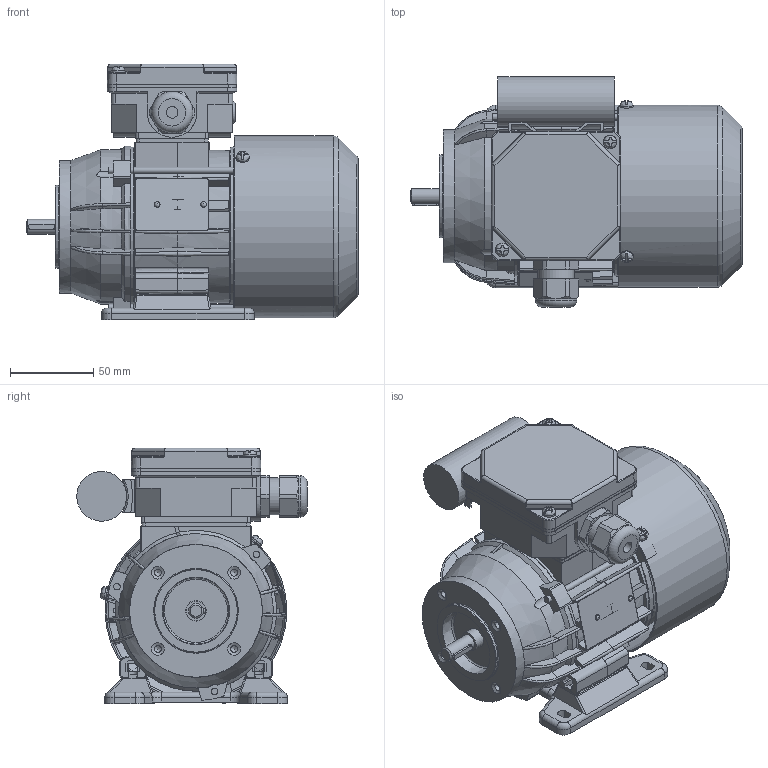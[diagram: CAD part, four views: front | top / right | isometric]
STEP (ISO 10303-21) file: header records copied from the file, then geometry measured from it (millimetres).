
FILE_DESCRIPTION( ( 'Unknown' ), '1' );
FILE_NAME( 'G:/Poczta Tk-1/STP/w.m.56/SEh56/SE(M)Lh56-C2.stp', 'Unknown', ( 'K. Szlosek' ), ( 'BESEL S.A.' ), 'PSStep 17.0.49', 'Unknown', ' ' );
FILE_SCHEMA( ( 'AUTOMOTIVE_DESIGN { 1 0 10303 214 1 1 1 1 }' ) );
Length unit declared in the file: millimetre
Products named in the file (32): Assem1; K4-2320 Uszczelka nr 1 Sh71,80; K3-2193 Tarcza łożyskowa P Sg56-2..; K2-0860 Pokrywka skrzynki zaciskowej; Wpust A3x3x16; K3-2977 Osłona przewietrznika Sg56; K4-2820 Uszczelka nr 2 Sh71,80; Wkręt samogwintujący M4x8; Wkręt samogwintujący M4x16; K2-0879 Przewietrznik Sg56; Nitokołek A 2x6; K3-9440 Podstawa  skrzynki zaciskowej SEhR71-D; K4-0898 Tulejka uszczelniająca; K3-1974 Uchwyt kondensatora (mały); Kondensator bb 8uF; K1-0484 Łapa Sg56-.. w. robocza; K3-9987 kadłub ze stojanem Sh56-C; K3-9990 wał Sh56-C; K1-0533 Tarcza kołnierzowa B14_2 SKg56-..2; Dławnica M20x1,5; Łożysko 6201; Tabliczka znamionowa 32x44; Śruba ściągająca E_M4x85
Assembly tree (47 placements, depth 2):
  Assem1
    K4-2320 Uszczelka nr 1 Sh71,80
    K3-2193 Tarcza łożyskowa P Sg56-2..
    K2-0860 Pokrywka skrzynki zaciskowej
    Wpust A3x3x16
    K3-2977 Osłona przewietrznika Sg56
    K4-2820 Uszczelka nr 2 Sh71,80
    Wkręt samogwintujący M4x8  x3
    Wkręt samogwintujący M4x16  x2
    K2-0879 Przewietrznik Sg56
    Nitokołek A 2x6  x2
    K3-9440 Podstawa  skrzynki zaciskowej SEhR71-D
    K4-0898 Tulejka uszczelniająca
    K3-1974 Uchwyt kondensatora (mały)
    Kondensator bb 8uF
    K1-0484 Łapa Sg56-.. w. robocza
    K3-9987 kadłub ze stojanem Sh56-C
    K3-9990 wał Sh56-C
    K1-0533 Tarcza kołnierzowa B14_2 SKg56-..2
    Dławnica M20x1,5
    Łożysko 6201  x2
    Łożysko 6201  x2
    Łożysko 6201  x2
    Łożysko 6201  x2
    Łożysko 6201  x2
    Łożysko 6201  x2
    Łożysko 6201  x2
    Łożysko 6201  x2
    Łożysko 6201  x2
    Łożysko 6201  x2
    Tabliczka znamionowa 32x44
    Śruba ściągająca E_M4x85  x3
Bounding box: 200 x 138.82 x 154 mm (x, y, z)
Volume: 509894.7 mm3; surface area: 331509.5 mm2
Topology: 47 solids, 63 shells, 1982 faces, 5363 edges, 3466 vertices
Faces by surface type: plane 1031, cylinder 579, cone 132, torus 112, bspline 94, sphere 34
Full cylindrical faces by diameter (mm): 2 x2, 2.4 x2, 3 x1, 3.242 x3, 3.5 x2, 3.7 x10, 4 x8, 4.134 x4, 4.5 x4, 4.6 x1, 4.8 x4, 5 x4, 5.8 x4, 6.5 x1, 7 x4, 8 x6, 9 x1, 10 x2, 10.9 x1, 11 x1, 11.5 x1, 11.8 x2, 12 x4, 12.4 x2, 15.5 x1, 16 x1, 16.1 x1, 17 x2, 18 x1, 18.38 x1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
Entity records: 80967 total; most frequent: CARTESIAN_POINT 21627, ORIENTED_EDGE 9324, DIRECTION 9286, EDGE_CURVE 4662, AXIS2_PLACEMENT_3D 3445, VERTEX_POINT 3154, LINE 2396, VECTOR 2396
